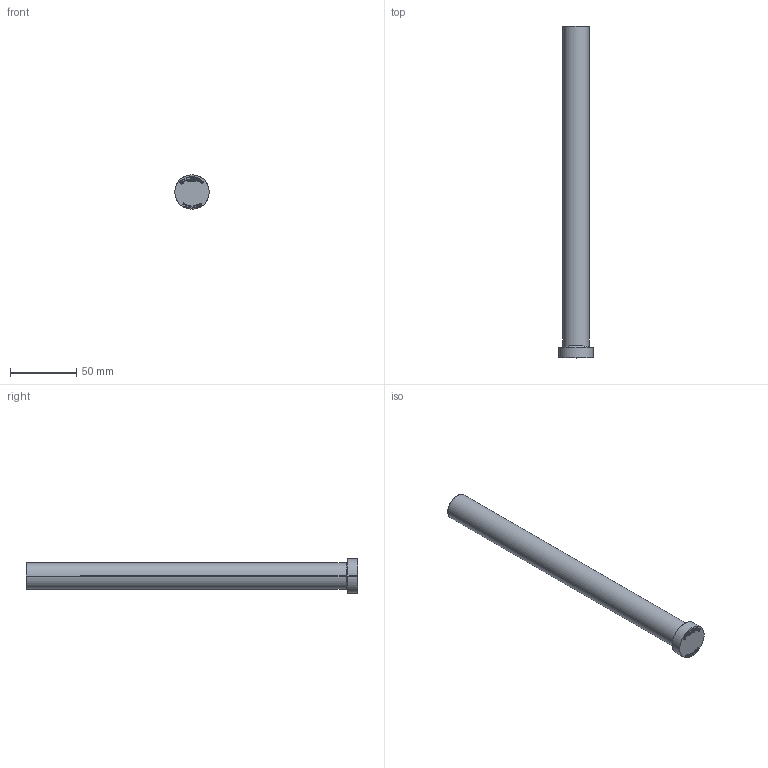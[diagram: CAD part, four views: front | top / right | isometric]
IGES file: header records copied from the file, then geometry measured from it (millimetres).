
Start section: SolidWorks IGES file using analytic representation for surfaces
Global section: file name: C:\Users\User\Downloads\Matripeça 31-08 tar\PB - PINO EXTRATOR TIPO _B_ (CATÁLOGO)\PB20,0\PB20,0250.IGS; native system: SolidWorks 2024; preprocessor: SolidWorks 2024; author: User; date: 260901.155621; units: millimetre
Bounding box: 26 x 250 x 26 mm (x, y, z)
Surface area: 16915 mm2 (no closed solid volume)
Topology: 0 solids, 0 shells, 404 faces, 4508 edges, 4508 vertices
Faces by surface type: bspline 390, revolution 14
